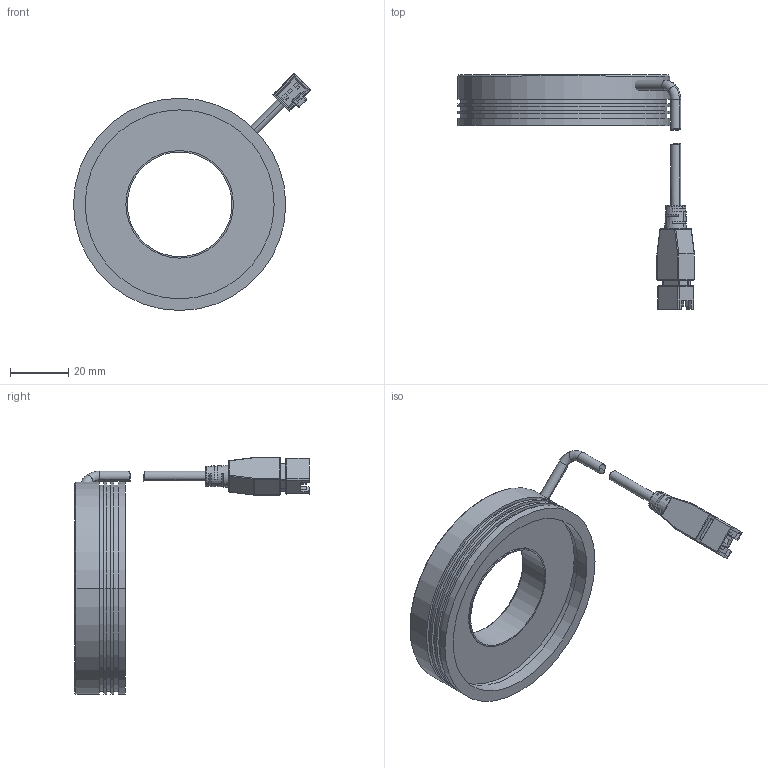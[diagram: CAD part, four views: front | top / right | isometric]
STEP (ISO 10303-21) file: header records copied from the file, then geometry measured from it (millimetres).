
FILE_DESCRIPTION((''),'2;1');
FILE_NAME('MV-LRDS-73-90_ASM','2019-09-19T',('rs-zhongwm'),(''),'PRO/ENGINEER BY PARAMETRIC TECHNOLOGY CORPORATION, 2010100','PRO/ENGINEER BY PARAMETRIC TECHNOLOGY CORPORATION, 2010100','');
FILE_SCHEMA(('CONFIG_CONTROL_DESIGN'));
Length unit declared in the file: millimetre
Products named in the file (5): PRT0009; PRT0010; PRT0011; ASM0006_ASM; MV-LRDS-73-90_ASM
Assembly tree (4 placements, depth 3):
  MV-LRDS-73-90_ASM
    PRT0009
    ASM0006_ASM
      PRT0010
      PRT0011
Bounding box: 81.49 x 80.8 x 81.49 mm (x, y, z)
Volume: 41617.8 mm3; surface area: 17207.9 mm2
Topology: 3 solids, 7 shells, 287 faces, 720 edges, 449 vertices
Faces by surface type: plane 142, cylinder 103, cone 14, torus 12, bspline 8, sphere 8
Entity records: 8855 total; most frequent: CARTESIAN_POINT 1854, DIRECTION 1486, ORIENTED_EDGE 1392, EDGE_CURVE 704, AXIS2_PLACEMENT_3D 536, VERTEX_POINT 449, VECTOR 414, LINE 414
